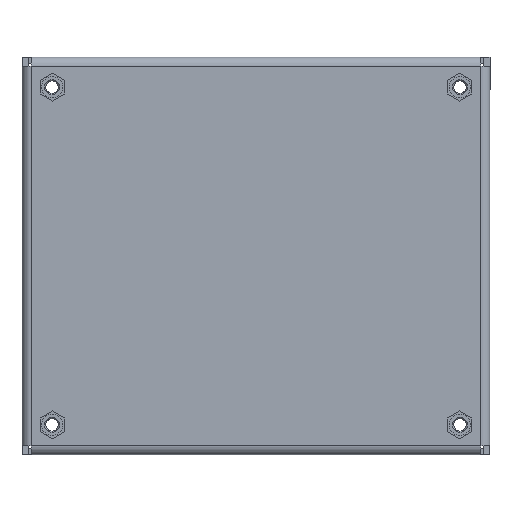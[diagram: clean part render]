
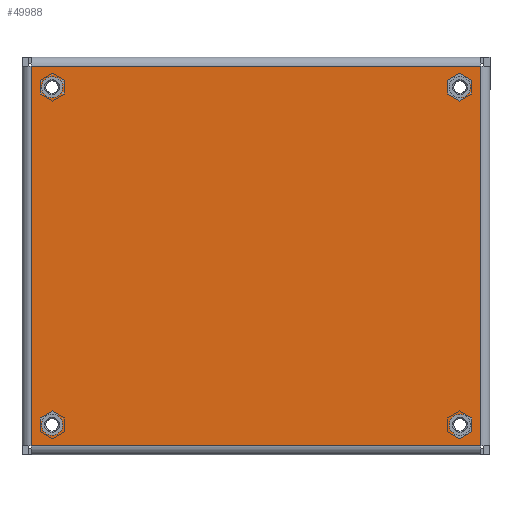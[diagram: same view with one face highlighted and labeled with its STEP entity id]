
A CAD part, front view. The second image highlights one B-rep face of the part: STEP entity #49988.
In plain terms, the highlighted planar face has unit normal (0, -1, 0) as drawn and (0, 0, -1) by its records, which use the part's own axes.
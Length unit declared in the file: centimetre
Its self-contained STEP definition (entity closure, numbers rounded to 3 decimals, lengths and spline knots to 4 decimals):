
#24265=CIRCLE('',#51566,0.211);
#24267=CIRCLE('',#51569,0.211);
#24269=CIRCLE('',#51572,0.211);
#24271=CIRCLE('',#51575,0.211);
#25138=VERTEX_POINT('',#62565);
#25165=VERTEX_POINT('',#62633);
#25179=VERTEX_POINT('',#62672);
#25181=VERTEX_POINT('',#62677);
#25183=VERTEX_POINT('',#62682);
#25185=VERTEX_POINT('',#62687);
#25186=VERTEX_POINT('',#62697);
#25188=VERTEX_POINT('',#62730);
#27967=VECTOR('',#54690,1.);
#27973=VECTOR('',#54707,1.);
#27980=VECTOR('',#54726,1.);
#27986=VECTOR('',#54744,1.);
#30937=LINE('',#62707,#27967);
#30943=LINE('',#62720,#27973);
#30950=LINE('',#62737,#27980);
#30956=LINE('',#62751,#27986);
#33908=EDGE_CURVE('',#25179,#25179,#24265,.T.);
#33910=EDGE_CURVE('',#25181,#25181,#24267,.T.);
#33912=EDGE_CURVE('',#25183,#25183,#24269,.T.);
#33914=EDGE_CURVE('',#25185,#25185,#24271,.T.);
#33925=EDGE_CURVE('',#25138,#25186,#30937,.T.);
#33933=EDGE_CURVE('',#25186,#25165,#30943,.T.);
#33942=EDGE_CURVE('',#25165,#25188,#30950,.T.);
#33950=EDGE_CURVE('',#25188,#25138,#30956,.T.);
#38281=ORIENTED_EDGE('',*,*,#33908,.T.);
#38282=ORIENTED_EDGE('',*,*,#33910,.T.);
#38283=ORIENTED_EDGE('',*,*,#33912,.T.);
#38284=ORIENTED_EDGE('',*,*,#33914,.T.);
#38285=ORIENTED_EDGE('',*,*,#33950,.F.);
#38286=ORIENTED_EDGE('',*,*,#33942,.F.);
#38287=ORIENTED_EDGE('',*,*,#33933,.F.);
#38288=ORIENTED_EDGE('',*,*,#33925,.F.);
#46590=EDGE_LOOP('',(#38281));
#46591=EDGE_LOOP('',(#38282));
#46592=EDGE_LOOP('',(#38283));
#46593=EDGE_LOOP('',(#38284));
#46594=EDGE_LOOP('',(#38285,#38286,#38287,#38288));
#48293=FACE_BOUND('',#46590,.T.);
#48294=FACE_BOUND('',#46591,.T.);
#48295=FACE_BOUND('',#46592,.T.);
#48296=FACE_BOUND('',#46593,.T.);
#48297=FACE_BOUND('',#46594,.T.);
#49988=ADVANCED_FACE('',(#48293,#48294,#48295,#48296,#48297),#77695,.F.);
#51566=AXIS2_PLACEMENT_3D('',#62671,#54647,#54648);
#51569=AXIS2_PLACEMENT_3D('',#62676,#54653,#54654);
#51572=AXIS2_PLACEMENT_3D('',#62681,#54659,#54660);
#51575=AXIS2_PLACEMENT_3D('',#62686,#54665,#54666);
#51611=AXIS2_PLACEMENT_3D('',#62753,#54746,$);
#54647=DIRECTION('',(0.,0.,1.));
#54648=DIRECTION('',(0.211,0.,0.));
#54653=DIRECTION('',(0.,0.,1.));
#54654=DIRECTION('',(0.211,0.,0.));
#54659=DIRECTION('',(0.,0.,1.));
#54660=DIRECTION('',(0.211,0.,0.));
#54665=DIRECTION('',(0.,0.,1.));
#54666=DIRECTION('',(0.211,0.,0.));
#54690=DIRECTION('',(1.,0.,0.));
#54707=DIRECTION('',(0.,1.,0.));
#54726=DIRECTION('',(-1.,0.,0.));
#54744=DIRECTION('',(0.,-1.,0.));
#54746=DIRECTION('',(0.,0.,1.));
#62565=CARTESIAN_POINT('',(-3.7846,-4.4831,0.));
#62633=CARTESIAN_POINT('',(3.7846,4.4831,0.));
#62671=CARTESIAN_POINT('',(-3.3655,-4.064,0.));
#62672=CARTESIAN_POINT('',(-3.5765,-4.064,0.));
#62676=CARTESIAN_POINT('',(3.3655,-4.064,0.));
#62677=CARTESIAN_POINT('',(3.1545,-4.064,0.));
#62681=CARTESIAN_POINT('',(-3.3655,4.064,0.));
#62682=CARTESIAN_POINT('',(-3.5765,4.064,0.));
#62686=CARTESIAN_POINT('',(3.3655,4.064,0.));
#62687=CARTESIAN_POINT('',(3.1545,4.064,0.));
#62697=CARTESIAN_POINT('',(3.7846,-4.4831,0.));
#62707=CARTESIAN_POINT('',(-3.7846,-4.4831,0.));
#62720=CARTESIAN_POINT('',(3.7846,-4.4831,0.));
#62730=CARTESIAN_POINT('',(-3.7846,4.4831,0.));
#62737=CARTESIAN_POINT('',(3.7846,4.4831,0.));
#62751=CARTESIAN_POINT('',(-3.7846,4.4831,0.));
#62753=CARTESIAN_POINT('',(0.,0.,0.));
#77695=PLANE('',#51611);
